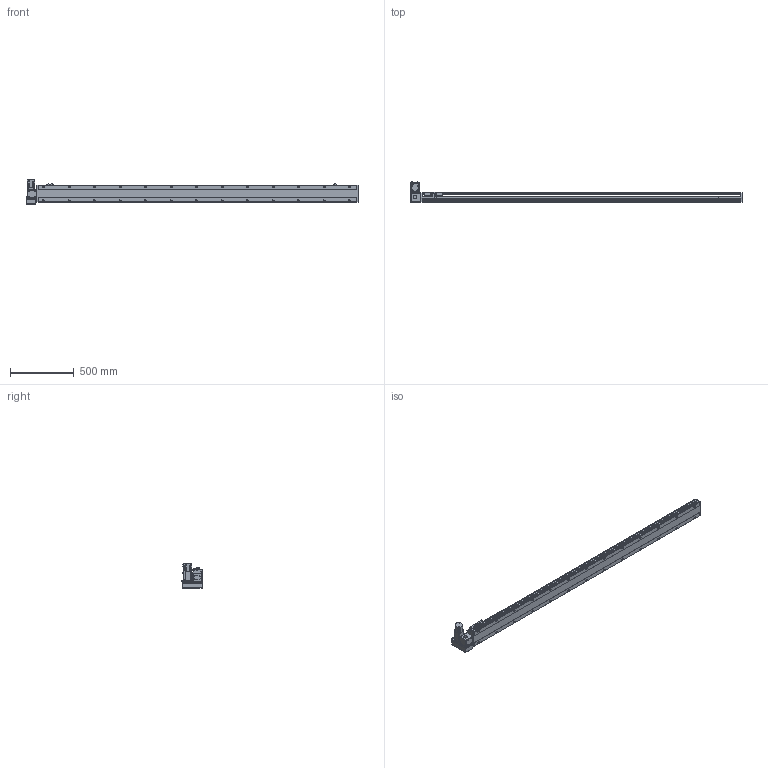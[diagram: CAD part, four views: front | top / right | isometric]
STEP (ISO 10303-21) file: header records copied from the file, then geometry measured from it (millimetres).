
FILE_DESCRIPTION( ( 'STEP AP214' ), '1' );
FILE_NAME( 'x:/temp/worker_2/temp/exporttempdir_6476_484_wOjDe/format_0/PBS140-P40-S2250-LU-T40-C1-N(0).stp', '2022-06-07T05:18:43', ( 'License CC BY-ND 4.0' ), ( 'CADENAS' ), ' ', 'PARTsolutions', ' ' );
FILE_SCHEMA( ( 'AUTOMOTIVE_DESIGN { 1 0 10303 214 1 1 1 1 }' ) );
Length unit declared in the file: millimetre
Products named in the file (7): PBS140-P40-S2250-LU-T40-C1-N(0); _PBS140-S2250()_body; _PBS140T-LU_motors; _T40-p1; _PBS140_sliser; _PBS140_plant; _PBS140_sensor
Assembly tree (8 placements, depth 2):
  PBS140-P40-S2250-LU-T40-C1-N(0)
    _PBS140-S2250()_body
    _PBS140T-LU_motors
    _T40-p1
    _PBS140_sliser
    _PBS140_plant
    _PBS140_sensor  x3
Bounding box: 2604 x 162.5 x 189.7 mm (x, y, z)
Volume: 11753988 mm3; surface area: 2006067.1 mm2
Topology: 8 solids, 8 shells, 1155 faces, 3036 edges, 1983 vertices
Faces by surface type: plane 722, cylinder 371, cone 52, sphere 8, torus 2
Full cylindrical faces by diameter (mm): 3.242 x4, 4 x2, 4.134 x4, 4.4 x8, 4.5 x2, 4.8 x4, 4.917 x34, 5.5 x7, 6 x2, 7 x28, 7.5 x8, 8 x12, 8.5 x4, 10.5 x26, 14 x1, 30 x2, 50 x2
Entity records: 42499 total; most frequent: CARTESIAN_POINT 7091, DIRECTION 5547, ORIENTED_EDGE 5212, EDGE_CURVE 2606, AXIS2_PLACEMENT_3D 1957, VERTEX_POINT 1821, LINE 1633, VECTOR 1633
